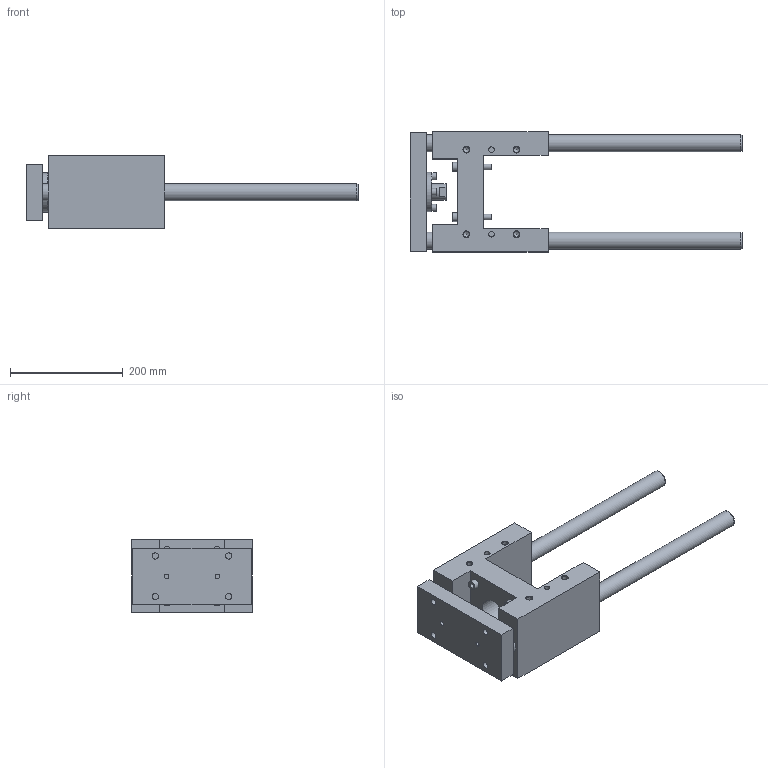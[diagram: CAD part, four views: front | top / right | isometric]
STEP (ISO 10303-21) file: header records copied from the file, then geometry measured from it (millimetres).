
FILE_DESCRIPTION( ( 'STEP AP214' ), '1' );
FILE_NAME( 'U:/Etudes/Top Solid/BIBLIO 3D AVM/TOP/PNEUMATIQUE/GUIDAGES/Type 32 (en H)/R_Renforcée/329R6130.step', '2005-05-27T09:21:46', ( ' ' ), ( ' ' ), 'XStep 1.0', ' ', ' ' );
FILE_SCHEMA( ( 'automotive_design' ) );
Length unit declared in the file: metre
Products named in the file (2): 1; 2
Bounding box: 589 x 213 x 129 mm (x, y, z)
Volume: 4047224.4 mm3; surface area: 441899.3 mm2
Topology: 2 solids, 7 shells, 207 faces, 460 edges, 303 vertices
Faces by surface type: plane 118, cylinder 68, cone 21
Full cylindrical faces by diameter (mm): 8 x10, 8.5 x4, 10 x10, 10.106 x12, 11 x8, 13 x4, 16 x4, 18 x4, 18.376 x2, 29 x1, 30 x4, 32 x1, 42 x1, 45 x1, 55 x1, 70 x1
Entity records: 6989 total; most frequent: CARTESIAN_POINT 1089, DIRECTION 880, ORIENTED_EDGE 678, EDGE_LOOP 360, AXIS2_PLACEMENT_3D 340, EDGE_CURVE 339, VERTEX_POINT 277, FACE_OUTER_BOUND 275
